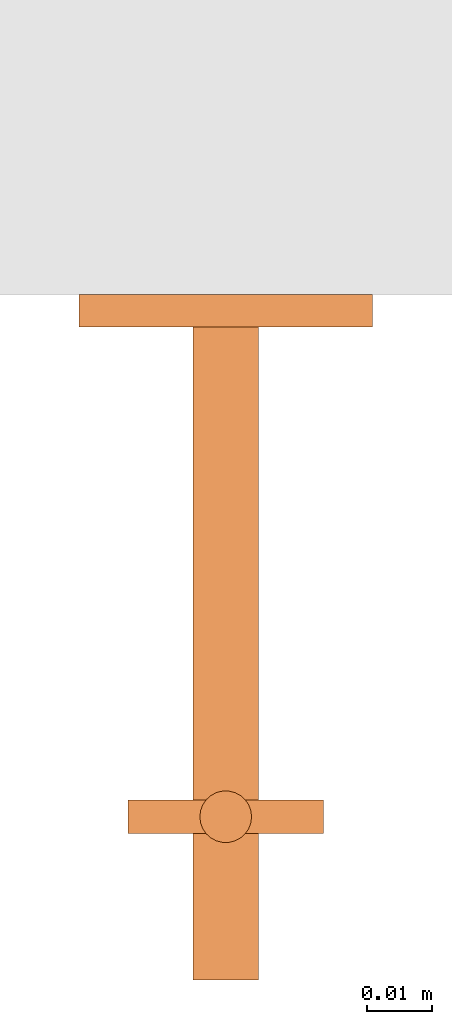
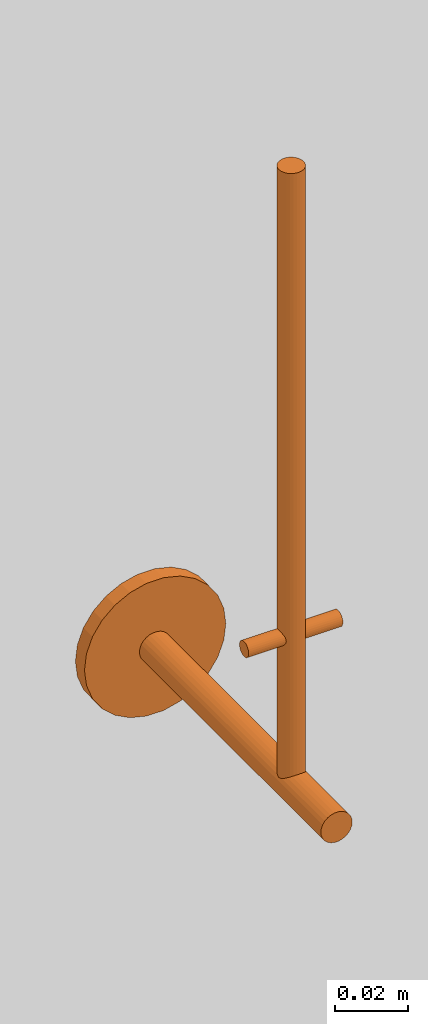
# One storey, part 2 of 2: 1 proxy.
"""IFC2X3 building model written with IfcOpenShell, lengths in millimetres."""

from ifc_helpers import new_model, entity, si_unit, converted_unit, derived_unit, direction, frame, frame_2d, origin, origin_2d_with_axis, place, context, subcontext, project, spatial, circle, extrude, source, transform, mapped, material, element, save


model = new_model("IFC2X3")

# Units and contexts
model_context = context("Model", 3, precision=1e-05, world=origin(), true_north=direction((2.0, 6.12303176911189e-17, 1.0)))
context_of_model = context(None, 3, precision=1e-05, world=origin(), true_north=direction((2.0, 6.12303176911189e-17, 1.0)))
body_context = subcontext(model_context, "Body", "Model", "MODEL_VIEW")
ifc_project = project(units=[si_unit("LENGTHUNIT", "METRE", prefix="MILLI"), si_unit("AREAUNIT", "SQUARE_METRE"), si_unit("VOLUMEUNIT", "CUBIC_METRE"), converted_unit("PLANEANGLEUNIT", "DEGREE", entity("IfcRatioMeasure", 0.0174532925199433), si_unit("PLANEANGLEUNIT", "RADIAN"), dimensions=[0, 0, 0, 0, 0, 0, 0]), si_unit("MASSUNIT", "GRAM", prefix="KILO"), si_unit("TIMEUNIT", "SECOND"), si_unit("THERMODYNAMICTEMPERATUREUNIT", "KELVIN"), derived_unit("THERMALTRANSMITTANCEUNIT", [(si_unit("MASSUNIT", "GRAM", prefix="KILO"), 1), (si_unit("THERMODYNAMICTEMPERATUREUNIT", "KELVIN"), -1), (si_unit("TIMEUNIT", "SECOND"), -3)]), derived_unit("VOLUMETRICFLOWRATEUNIT", [(si_unit("LENGTHUNIT", "METRE"), 3), (si_unit("TIMEUNIT", "SECOND"), -1)]), si_unit("POWERUNIT", "WATT")], contexts=[model_context, context_of_model])

# Site, building, storey
site_placement = place(None, origin())
site = spatial("IfcSite", under=ifc_project, at=site_placement, Name="Default", CompositionType="ELEMENT")
building_placement = place(site_placement, origin())
building = spatial("IfcBuilding", under=site, at=building_placement, CompositionType="ELEMENT")
storey_placement = place(building_placement, origin())
storey = spatial("IfcBuildingStorey", under=building, at=storey_placement, Name="Level 1", CompositionType="ELEMENT", Elevation=0.0)

# Proxy
ifc_material = material(Name="Stainless Steel")
shared_shape = source(origin(), body_context, "Body", "SweptSolid", [
    extrude(circle(Radius=2.53199094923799, at=origin_2d_with_axis()), frame((-15.0, -80.0, 50.0), z_axis=(1.0, 0.0, 0.0), x_axis=(0.0, 1.0, 0.0)), (0.0, 0.0, 1.0), 30.0),
    extrude(circle(Radius=3.9627651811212, at=frame_2d((1.59364610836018e-16, -1.69197988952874e-14), x_axis=(1.0, 0.0))), frame((0.0, -80.0, 0.0)), (0.0, 0.0, 1.0), 207.5),
    extrude(circle(Radius=5.0, at=frame_2d((0.0, -2.251062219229e-14), x_axis=(1.0, 0.0))), frame((0.0, -105.0, 0.0), z_axis=(0.0, 1.0, 0.0), x_axis=(1.0, 0.0, 0.0)), (0.0, 0.0, 1.0), 105.0),
    extrude(circle(Radius=22.5, at=frame_2d((0.0, -1.01297799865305e-13), x_axis=(1.0, 0.0))), frame((0.0, -5.0, 0.0), z_axis=(0.0, 1.0, 0.0), x_axis=(1.0, 0.0, 0.0)), (0.0, 0.0, 1.0), 5.0),
])
proxy_placement = place(storey_placement, frame((1211.17987533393, 3952.698533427, 96.6944389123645)))
element("IfcBuildingElementProxy", 1, at=proxy_placement, inside=storey, material=ifc_material, Name="DP2102 - DP2103:DP2102 / DP2103 Dolphin Spare Toilet Roll Holder", ObjectType="DP2102 / DP2103 Dolphin Spare Toilet Roll Holder", CompositionType="ELEMENT", context=body_context, shape_type="MappedRepresentation", body=[
    mapped(shared_shape, transform((0.0, 0.0, 0.0), scale=1.0)),
])

save(model, "model.ifc")
